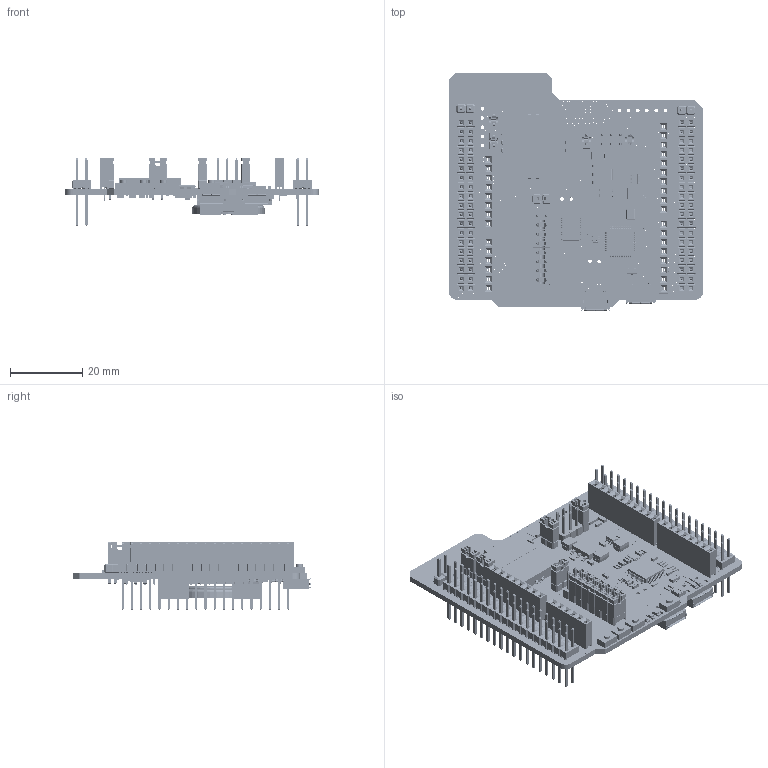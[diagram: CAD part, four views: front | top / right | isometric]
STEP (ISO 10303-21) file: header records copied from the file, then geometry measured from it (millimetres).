
FILE_DESCRIPTION(('Open CASCADE Model'),'2;1');
FILE_NAME('Open CASCADE Shape Model','2021-01-07T13:52:04',('Author'),( 'Open CASCADE'),'Open CASCADE STEP processor 6.8','Open CASCADE 6.8' ,'Unknown');
FILE_SCHEMA(('AUTOMOTIVE_DESIGN { 1 0 10303 214 1 1 1 1 }'));
Length unit declared in the file: millimetre
Products named in the file (296): PCB; Board; Open CASCADE STEP translator 6.8 1.1.1; JP6; 1x2x2.54_Pin_Header_TH__V; 1x1x2.54_Pin_Header_TH_V; JMP12; Jumper_2_54mm; Q1; sot23-3; 6912528432; Cylinder; C32; 6913311344; Extruded; 6913310864; U1; 6911880272; 6911879872; SC4; Shield_clip_s0951-46; SC3; SC2; SC1; L5; 6912886560; 6913319184; SW3; 6912524832; 6912524592; SW2; SW1; JP5; pin_header_awl254-dg-g16d; LED6; 6911877792; 6911877552; 6911877312; LED1; 6912211872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
Assembly tree (624 placements, depth 4):
  PCB
    Board
      Open CASCADE STEP translator 6.8 1.1.1
    JP6
      1x2x2.54_Pin_Header_TH__V
        1x1x2.54_Pin_Header_TH_V  x2
    JMP12
      Jumper_2_54mm
    Q1
      sot23-3
      6912528432
        Cylinder
    C32
      6913311344  x2
        Extruded
      6913310864
        Extruded
    U1
      6911880272
        Extruded
      6911879872
        Cylinder
    SC4
      Shield_clip_s0951-46
    SC3
      Shield_clip_s0951-46
    SC2
      Shield_clip_s0951-46
    SC1
      Shield_clip_s0951-46
    L5
      6912886560
        Extruded
      6913319184  x2
        Extruded
    SW3
      6912524832
        Cylinder
      6912524592
        Extruded
    SW2
      6912524832
        Cylinder
      6912524592
        Extruded
    SW1
      6912524832
        Cylinder
      6912524592
        Extruded
    JP5
      pin_header_awl254-dg-g16d
    LED6
      6911877792
        Extruded
      6911877552
        Extruded
      6911877312
        Extruded
    LED1
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Bounding box: 70.13 x 65.69 x 18.7 mm (x, y, z)
Volume: 12733.2 mm3; surface area: 31261 mm2
Topology: 447 solids, 453 shells, 15458 faces, 38447 edges, 23781 vertices
Faces by surface type: plane 11215, cylinder 3172, bspline 987, sphere 54, cone 16, torus 14
Full cylindrical faces by diameter (mm): 0.2 x548, 0.3 x12, 0.5 x2, 0.6 x1, 0.9 x4, 1 x159, 1.9 x4
Entity records: 249203 total; most frequent: CARTESIAN_POINT 40544, ORIENTED_EDGE 33268, DIRECTION 33081, EDGE_CURVE 16635, LINE 13615, VECTOR 13615, VERTEX_POINT 10535, AXIS2_PLACEMENT_3D 9733
